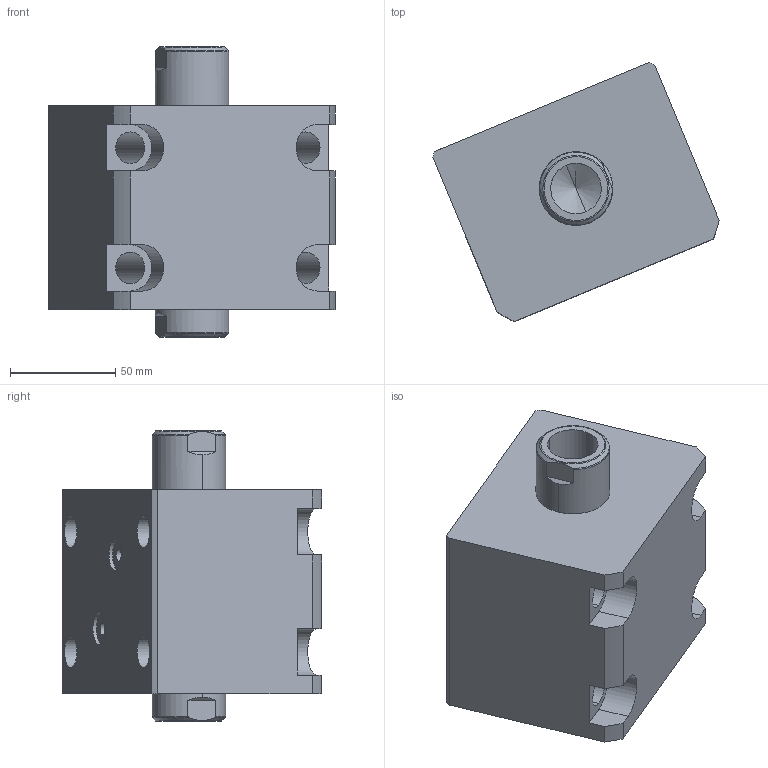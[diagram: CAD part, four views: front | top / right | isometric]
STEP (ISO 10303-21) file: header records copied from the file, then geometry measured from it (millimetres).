
FILE_DESCRIPTION (( 'STEP AP214' ), '1' );
FILE_NAME ('chtb-lwm63x15n_asm.STEP', '2018-05-22T09:15:45', ( '' ), ( '' ), 'SwSTEP 2.0', 'SolidWorks 2016', '' );
FILE_SCHEMA (( 'AUTOMOTIVE_DESIGN' ));
Length unit declared in the file: millimetre
Products named in the file (4): CHTB-SW63X15NHSG; CHTB-LWM63X15NBT; CHTB-63QG; chtb-lwm63x15n_asm
Assembly tree (3 placements, depth 2):
  chtb-lwm63x15n_asm
    CHTB-63QG
    CHTB-LWM63X15NBT
    CHTB-SW63X15NHSG
Bounding box: 135.77 x 123.03 x 138 mm (x, y, z)
Volume: 888143.9 mm3; surface area: 135956.2 mm2
Topology: 3 solids, 3 shells, 173 faces, 510 edges, 345 vertices
Faces by surface type: cylinder 98, plane 39, bspline 12, cone 12, torus 12
Entity records: 18228 total; most frequent: CARTESIAN_POINT 13770, ORIENTED_EDGE 1004, DIRECTION 763, EDGE_CURVE 502, VERTEX_POINT 345, AXIS2_PLACEMENT_3D 294, EDGE_LOOP 199, VECTOR 175
